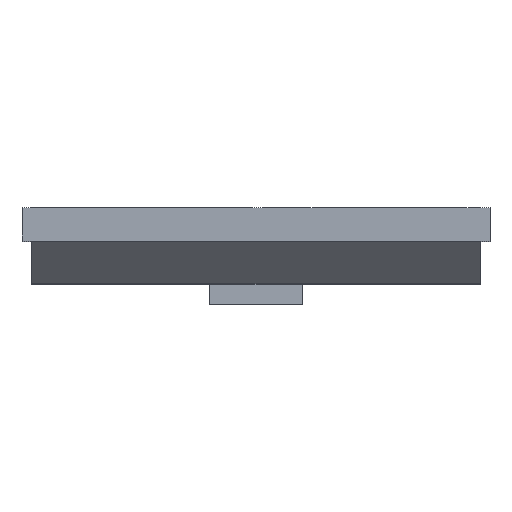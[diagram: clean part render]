
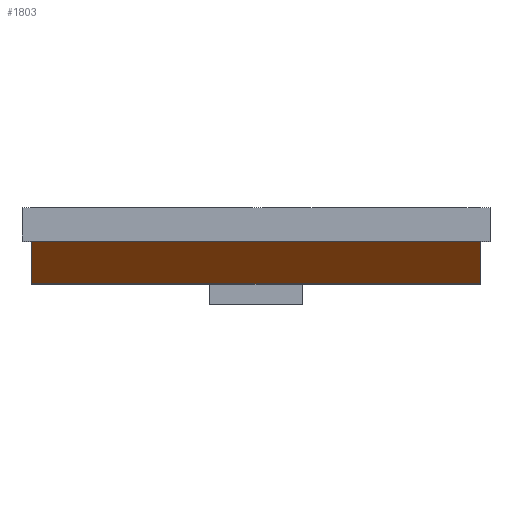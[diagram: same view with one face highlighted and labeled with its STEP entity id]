
A CAD part, top view. The second image highlights one B-rep face of the part: STEP entity #1803.
In plain terms, the highlighted planar face has unit normal (0, -0.707, 0.707).
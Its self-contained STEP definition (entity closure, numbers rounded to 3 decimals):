
#97=FACE_OUTER_BOUND('',#179,.T.);
#179=EDGE_LOOP('',(#1426,#1427,#1428,#1429,#1430,#1431,#1432,#1433,#1434,
#1435));
#377=LINE('',#2702,#626);
#383=LINE('',#2714,#632);
#385=LINE('',#2719,#634);
#397=LINE('',#2739,#646);
#398=LINE('',#2741,#647);
#399=LINE('',#2744,#648);
#400=LINE('',#2745,#649);
#401=LINE('',#2746,#650);
#402=LINE('',#2748,#651);
#403=LINE('',#2749,#652);
#626=VECTOR('',#2194,10.);
#632=VECTOR('',#2202,10.);
#634=VECTOR('',#2206,10.);
#646=VECTOR('',#2222,10.);
#647=VECTOR('',#2225,10.);
#648=VECTOR('',#2228,10.);
#649=VECTOR('',#2229,10.);
#650=VECTOR('',#2230,10.);
#651=VECTOR('',#2231,10.);
#652=VECTOR('',#2232,10.);
#811=VERTEX_POINT('',#2657);
#824=VERTEX_POINT('',#2698);
#826=VERTEX_POINT('',#2701);
#829=VERTEX_POINT('',#2708);
#831=VERTEX_POINT('',#2712);
#832=VERTEX_POINT('',#2716);
#838=VERTEX_POINT('',#2735);
#839=VERTEX_POINT('',#2737);
#840=VERTEX_POINT('',#2743);
#841=VERTEX_POINT('',#2747);
#1039=EDGE_CURVE('',#826,#824,#377,.T.);
#1045=EDGE_CURVE('',#829,#831,#383,.T.);
#1047=EDGE_CURVE('',#811,#832,#385,.T.);
#1059=EDGE_CURVE('',#838,#839,#397,.T.);
#1060=EDGE_CURVE('',#839,#826,#398,.T.);
#1061=EDGE_CURVE('',#840,#824,#399,.T.);
#1062=EDGE_CURVE('',#829,#840,#400,.T.);
#1063=EDGE_CURVE('',#811,#831,#401,.T.);
#1064=EDGE_CURVE('',#841,#832,#402,.T.);
#1065=EDGE_CURVE('',#838,#841,#403,.T.);
#1426=ORIENTED_EDGE('',*,*,#1060,.T.);
#1427=ORIENTED_EDGE('',*,*,#1039,.T.);
#1428=ORIENTED_EDGE('',*,*,#1061,.F.);
#1429=ORIENTED_EDGE('',*,*,#1062,.F.);
#1430=ORIENTED_EDGE('',*,*,#1045,.T.);
#1431=ORIENTED_EDGE('',*,*,#1063,.F.);
#1432=ORIENTED_EDGE('',*,*,#1047,.T.);
#1433=ORIENTED_EDGE('',*,*,#1064,.F.);
#1434=ORIENTED_EDGE('',*,*,#1065,.F.);
#1435=ORIENTED_EDGE('',*,*,#1059,.T.);
#1729=PLANE('',#1905);
#1803=ADVANCED_FACE('',(#97),#1729,.F.);
#1905=AXIS2_PLACEMENT_3D('',#2742,#2226,#2227);
#2194=DIRECTION('',(0.,0.707,0.707));
#2202=DIRECTION('',(-1.,0.,0.));
#2206=DIRECTION('',(-1.,0.,0.));
#2222=DIRECTION('',(0.,-0.707,-0.707));
#2225=DIRECTION('',(1.,0.,0.));
#2226=DIRECTION('center_axis',(0.,0.707,-0.707));
#2227=DIRECTION('ref_axis',(-1.,0.,0.));
#2228=DIRECTION('',(0.,-0.707,-0.707));
#2229=DIRECTION('',(1.,0.,0.));
#2230=DIRECTION('',(1.,0.,0.));
#2231=DIRECTION('',(1.,0.,0.));
#2232=DIRECTION('',(0.,0.707,0.707));
#2657=CARTESIAN_POINT('',(-6.5,0.,187.));
#2698=CARTESIAN_POINT('',(187.,-14.,173.));
#2701=CARTESIAN_POINT('',(187.,-49.497,137.503));
#2702=CARTESIAN_POINT('',(187.,-49.497,137.503));
#2708=CARTESIAN_POINT('',(165.5,0.,187.));
#2712=CARTESIAN_POINT('',(6.5,0.,187.));
#2714=CARTESIAN_POINT('',(-187.,0.,187.));
#2716=CARTESIAN_POINT('',(-165.5,0.,187.));
#2719=CARTESIAN_POINT('',(-187.,0.,187.));
#2735=CARTESIAN_POINT('',(-187.,-14.,173.));
#2737=CARTESIAN_POINT('',(-187.,-49.497,137.503));
#2739=CARTESIAN_POINT('',(-187.,0.,187.));
#2741=CARTESIAN_POINT('',(-187.,-49.497,137.503));
#2742=CARTESIAN_POINT('Origin',(0.,-24.749,162.251));
#2743=CARTESIAN_POINT('',(187.,0.,187.));
#2744=CARTESIAN_POINT('',(187.,-15.874,171.126));
#2745=CARTESIAN_POINT('',(-93.5,0.,187.));
#2746=CARTESIAN_POINT('',(-96.75,0.,187.));
#2747=CARTESIAN_POINT('',(-187.,0.,187.));
#2748=CARTESIAN_POINT('',(-93.5,0.,187.));
#2749=CARTESIAN_POINT('',(-187.,-109.374,77.626));
